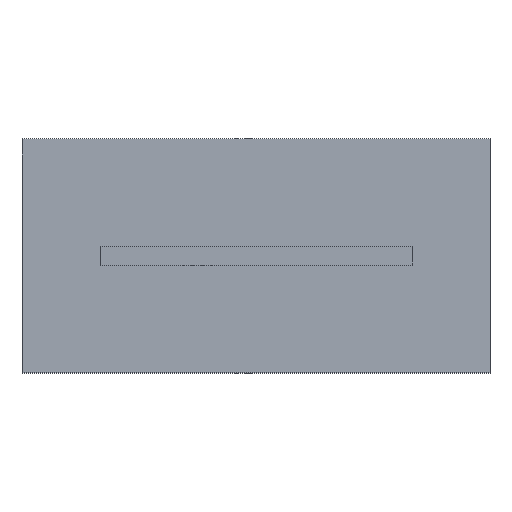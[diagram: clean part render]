
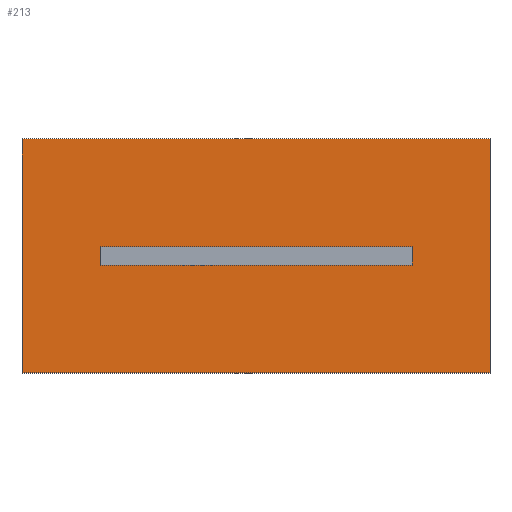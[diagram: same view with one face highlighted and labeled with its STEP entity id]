
A CAD part, top view. The second image highlights one B-rep face of the part: STEP entity #213.
In plain terms, the highlighted planar face has unit normal (0, 0, 1).
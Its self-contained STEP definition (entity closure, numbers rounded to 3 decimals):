
#24 = VERTEX_POINT('',#25);
#25 = CARTESIAN_POINT('',(-45.,-22.5,15.));
#32 = PLANE('',#33);
#33 = AXIS2_PLACEMENT_3D('',#34,#35,#36);
#34 = CARTESIAN_POINT('',(-45.,-22.5,0.));
#35 = DIRECTION('',(1.,0.,0.));
#36 = DIRECTION('',(0.,0.,1.));
#44 = PLANE('',#45);
#45 = AXIS2_PLACEMENT_3D('',#46,#47,#48);
#46 = CARTESIAN_POINT('',(-45.,-22.5,0.));
#47 = DIRECTION('',(0.,1.,0.));
#48 = DIRECTION('',(0.,0.,1.));
#85 = VERTEX_POINT('',#86);
#86 = CARTESIAN_POINT('',(-45.,22.5,15.));
#100 = PLANE('',#101);
#101 = AXIS2_PLACEMENT_3D('',#102,#103,#104);
#102 = CARTESIAN_POINT('',(-45.,22.5,0.));
#103 = DIRECTION('',(0.,1.,0.));
#104 = DIRECTION('',(0.,0.,1.));
#112 = EDGE_CURVE('',#24,#85,#113,.T.);
#113 = SURFACE_CURVE('',#114,(#118,#125),.PCURVE_S1.);
#114 = LINE('',#115,#116);
#115 = CARTESIAN_POINT('',(-45.,-22.5,15.));
#116 = VECTOR('',#117,1.);
#117 = DIRECTION('',(0.,1.,0.));
#118 = PCURVE('',#32,#119);
#119 = DEFINITIONAL_REPRESENTATION('',(#120),#124);
#120 = LINE('',#121,#122);
#121 = CARTESIAN_POINT('',(15.,0.));
#122 = VECTOR('',#123,1.);
#123 = DIRECTION('',(0.,-1.));
#124 = ( GEOMETRIC_REPRESENTATION_CONTEXT(2) 
PARAMETRIC_REPRESENTATION_CONTEXT() REPRESENTATION_CONTEXT('2D SPACE',''
  ) );
#125 = PCURVE('',#126,#131);
#126 = PLANE('',#127);
#127 = AXIS2_PLACEMENT_3D('',#128,#129,#130);
#128 = CARTESIAN_POINT('',(-45.,-22.5,15.));
#129 = DIRECTION('',(0.,0.,1.));
#130 = DIRECTION('',(1.,0.,0.));
#131 = DEFINITIONAL_REPRESENTATION('',(#132),#136);
#132 = LINE('',#133,#134);
#133 = CARTESIAN_POINT('',(0.,0.));
#134 = VECTOR('',#135,1.);
#135 = DIRECTION('',(0.,1.));
#136 = ( GEOMETRIC_REPRESENTATION_CONTEXT(2) 
PARAMETRIC_REPRESENTATION_CONTEXT() REPRESENTATION_CONTEXT('2D SPACE',''
  ) );
#165 = EDGE_CURVE('',#24,#166,#168,.T.);
#166 = VERTEX_POINT('',#167);
#167 = CARTESIAN_POINT('',(45.,-22.5,15.));
#168 = SURFACE_CURVE('',#169,(#173,#180),.PCURVE_S1.);
#169 = LINE('',#170,#171);
#170 = CARTESIAN_POINT('',(-45.,-22.5,15.));
#171 = VECTOR('',#172,1.);
#172 = DIRECTION('',(1.,0.,0.));
#173 = PCURVE('',#44,#174);
#174 = DEFINITIONAL_REPRESENTATION('',(#175),#179);
#175 = LINE('',#176,#177);
#176 = CARTESIAN_POINT('',(15.,0.));
#177 = VECTOR('',#178,1.);
#178 = DIRECTION('',(0.,1.));
#179 = ( GEOMETRIC_REPRESENTATION_CONTEXT(2) 
PARAMETRIC_REPRESENTATION_CONTEXT() REPRESENTATION_CONTEXT('2D SPACE',''
  ) );
#180 = PCURVE('',#126,#181);
#181 = DEFINITIONAL_REPRESENTATION('',(#182),#186);
#182 = LINE('',#183,#184);
#183 = CARTESIAN_POINT('',(0.,0.));
#184 = VECTOR('',#185,1.);
#185 = DIRECTION('',(1.,0.));
#186 = ( GEOMETRIC_REPRESENTATION_CONTEXT(2) 
PARAMETRIC_REPRESENTATION_CONTEXT() REPRESENTATION_CONTEXT('2D SPACE',''
  ) );
#202 = PLANE('',#203);
#203 = AXIS2_PLACEMENT_3D('',#204,#205,#206);
#204 = CARTESIAN_POINT('',(45.,-22.5,0.));
#205 = DIRECTION('',(1.,0.,0.));
#206 = DIRECTION('',(0.,0.,1.));
#213 = ADVANCED_FACE('',(#214,#262),#126,.T.);
#214 = FACE_BOUND('',#215,.T.);
#215 = EDGE_LOOP('',(#216,#217,#218,#241));
#216 = ORIENTED_EDGE('',*,*,#112,.F.);
#217 = ORIENTED_EDGE('',*,*,#165,.T.);
#218 = ORIENTED_EDGE('',*,*,#219,.T.);
#219 = EDGE_CURVE('',#166,#220,#222,.T.);
#220 = VERTEX_POINT('',#221);
#221 = CARTESIAN_POINT('',(45.,22.5,15.));
#222 = SURFACE_CURVE('',#223,(#227,#234),.PCURVE_S1.);
#223 = LINE('',#224,#225);
#224 = CARTESIAN_POINT('',(45.,-22.5,15.));
#225 = VECTOR('',#226,1.);
#226 = DIRECTION('',(0.,1.,0.));
#227 = PCURVE('',#126,#228);
#228 = DEFINITIONAL_REPRESENTATION('',(#229),#233);
#229 = LINE('',#230,#231);
#230 = CARTESIAN_POINT('',(90.,0.));
#231 = VECTOR('',#232,1.);
#232 = DIRECTION('',(0.,1.));
#233 = ( GEOMETRIC_REPRESENTATION_CONTEXT(2) 
PARAMETRIC_REPRESENTATION_CONTEXT() REPRESENTATION_CONTEXT('2D SPACE',''
  ) );
#234 = PCURVE('',#202,#235);
#235 = DEFINITIONAL_REPRESENTATION('',(#236),#240);
#236 = LINE('',#237,#238);
#237 = CARTESIAN_POINT('',(15.,0.));
#238 = VECTOR('',#239,1.);
#239 = DIRECTION('',(0.,-1.));
#240 = ( GEOMETRIC_REPRESENTATION_CONTEXT(2) 
PARAMETRIC_REPRESENTATION_CONTEXT() REPRESENTATION_CONTEXT('2D SPACE',''
  ) );
#241 = ORIENTED_EDGE('',*,*,#242,.F.);
#242 = EDGE_CURVE('',#85,#220,#243,.T.);
#243 = SURFACE_CURVE('',#244,(#248,#255),.PCURVE_S1.);
#244 = LINE('',#245,#246);
#245 = CARTESIAN_POINT('',(-45.,22.5,15.));
#246 = VECTOR('',#247,1.);
#247 = DIRECTION('',(1.,0.,0.));
#248 = PCURVE('',#126,#249);
#249 = DEFINITIONAL_REPRESENTATION('',(#250),#254);
#250 = LINE('',#251,#252);
#251 = CARTESIAN_POINT('',(0.,45.));
#252 = VECTOR('',#253,1.);
#253 = DIRECTION('',(1.,0.));
#254 = ( GEOMETRIC_REPRESENTATION_CONTEXT(2) 
PARAMETRIC_REPRESENTATION_CONTEXT() REPRESENTATION_CONTEXT('2D SPACE',''
  ) );
#255 = PCURVE('',#100,#256);
#256 = DEFINITIONAL_REPRESENTATION('',(#257),#261);
#257 = LINE('',#258,#259);
#258 = CARTESIAN_POINT('',(15.,0.));
#259 = VECTOR('',#260,1.);
#260 = DIRECTION('',(0.,1.));
#261 = ( GEOMETRIC_REPRESENTATION_CONTEXT(2) 
PARAMETRIC_REPRESENTATION_CONTEXT() REPRESENTATION_CONTEXT('2D SPACE',''
  ) );
#262 = FACE_BOUND('',#263,.T.);
#263 = EDGE_LOOP('',(#264,#294,#322,#350));
#264 = ORIENTED_EDGE('',*,*,#265,.T.);
#265 = EDGE_CURVE('',#266,#268,#270,.T.);
#266 = VERTEX_POINT('',#267);
#267 = CARTESIAN_POINT('',(30.,-1.75,15.));
#268 = VERTEX_POINT('',#269);
#269 = CARTESIAN_POINT('',(-30.,-1.75,15.));
#270 = SURFACE_CURVE('',#271,(#275,#282),.PCURVE_S1.);
#271 = LINE('',#272,#273);
#272 = CARTESIAN_POINT('',(-37.5,-1.75,15.));
#273 = VECTOR('',#274,1.);
#274 = DIRECTION('',(-1.,0.,0.));
#275 = PCURVE('',#126,#276);
#276 = DEFINITIONAL_REPRESENTATION('',(#277),#281);
#277 = LINE('',#278,#279);
#278 = CARTESIAN_POINT('',(7.5,20.75));
#279 = VECTOR('',#280,1.);
#280 = DIRECTION('',(-1.,0.));
#281 = ( GEOMETRIC_REPRESENTATION_CONTEXT(2) 
PARAMETRIC_REPRESENTATION_CONTEXT() REPRESENTATION_CONTEXT('2D SPACE',''
  ) );
#282 = PCURVE('',#283,#288);
#283 = PLANE('',#284);
#284 = AXIS2_PLACEMENT_3D('',#285,#286,#287);
#285 = CARTESIAN_POINT('',(-30.,-1.75,3.));
#286 = DIRECTION('',(0.,1.,0.));
#287 = DIRECTION('',(0.,0.,1.));
#288 = DEFINITIONAL_REPRESENTATION('',(#289),#293);
#289 = LINE('',#290,#291);
#290 = CARTESIAN_POINT('',(12.,-7.5));
#291 = VECTOR('',#292,1.);
#292 = DIRECTION('',(0.,-1.));
#293 = ( GEOMETRIC_REPRESENTATION_CONTEXT(2) 
PARAMETRIC_REPRESENTATION_CONTEXT() REPRESENTATION_CONTEXT('2D SPACE',''
  ) );
#294 = ORIENTED_EDGE('',*,*,#295,.T.);
#295 = EDGE_CURVE('',#268,#296,#298,.T.);
#296 = VERTEX_POINT('',#297);
#297 = CARTESIAN_POINT('',(-30.,1.75,15.));
#298 = SURFACE_CURVE('',#299,(#303,#310),.PCURVE_S1.);
#299 = LINE('',#300,#301);
#300 = CARTESIAN_POINT('',(-30.,-12.125,15.));
#301 = VECTOR('',#302,1.);
#302 = DIRECTION('',(0.,1.,0.));
#303 = PCURVE('',#126,#304);
#304 = DEFINITIONAL_REPRESENTATION('',(#305),#309);
#305 = LINE('',#306,#307);
#306 = CARTESIAN_POINT('',(15.,10.375));
#307 = VECTOR('',#308,1.);
#308 = DIRECTION('',(0.,1.));
#309 = ( GEOMETRIC_REPRESENTATION_CONTEXT(2) 
PARAMETRIC_REPRESENTATION_CONTEXT() REPRESENTATION_CONTEXT('2D SPACE',''
  ) );
#310 = PCURVE('',#311,#316);
#311 = PLANE('',#312);
#312 = AXIS2_PLACEMENT_3D('',#313,#314,#315);
#313 = CARTESIAN_POINT('',(-30.,-1.75,3.));
#314 = DIRECTION('',(1.,0.,0.));
#315 = DIRECTION('',(0.,0.,1.));
#316 = DEFINITIONAL_REPRESENTATION('',(#317),#321);
#317 = LINE('',#318,#319);
#318 = CARTESIAN_POINT('',(12.,10.375));
#319 = VECTOR('',#320,1.);
#320 = DIRECTION('',(0.,-1.));
#321 = ( GEOMETRIC_REPRESENTATION_CONTEXT(2) 
PARAMETRIC_REPRESENTATION_CONTEXT() REPRESENTATION_CONTEXT('2D SPACE',''
  ) );
#322 = ORIENTED_EDGE('',*,*,#323,.F.);
#323 = EDGE_CURVE('',#324,#296,#326,.T.);
#324 = VERTEX_POINT('',#325);
#325 = CARTESIAN_POINT('',(30.,1.75,15.));
#326 = SURFACE_CURVE('',#327,(#331,#338),.PCURVE_S1.);
#327 = LINE('',#328,#329);
#328 = CARTESIAN_POINT('',(-37.5,1.75,15.));
#329 = VECTOR('',#330,1.);
#330 = DIRECTION('',(-1.,0.,0.));
#331 = PCURVE('',#126,#332);
#332 = DEFINITIONAL_REPRESENTATION('',(#333),#337);
#333 = LINE('',#334,#335);
#334 = CARTESIAN_POINT('',(7.5,24.25));
#335 = VECTOR('',#336,1.);
#336 = DIRECTION('',(-1.,0.));
#337 = ( GEOMETRIC_REPRESENTATION_CONTEXT(2) 
PARAMETRIC_REPRESENTATION_CONTEXT() REPRESENTATION_CONTEXT('2D SPACE',''
  ) );
#338 = PCURVE('',#339,#344);
#339 = PLANE('',#340);
#340 = AXIS2_PLACEMENT_3D('',#341,#342,#343);
#341 = CARTESIAN_POINT('',(-30.,1.75,3.));
#342 = DIRECTION('',(0.,1.,0.));
#343 = DIRECTION('',(0.,0.,1.));
#344 = DEFINITIONAL_REPRESENTATION('',(#345),#349);
#345 = LINE('',#346,#347);
#346 = CARTESIAN_POINT('',(12.,-7.5));
#347 = VECTOR('',#348,1.);
#348 = DIRECTION('',(0.,-1.));
#349 = ( GEOMETRIC_REPRESENTATION_CONTEXT(2) 
PARAMETRIC_REPRESENTATION_CONTEXT() REPRESENTATION_CONTEXT('2D SPACE',''
  ) );
#350 = ORIENTED_EDGE('',*,*,#351,.F.);
#351 = EDGE_CURVE('',#266,#324,#352,.T.);
#352 = SURFACE_CURVE('',#353,(#357,#364),.PCURVE_S1.);
#353 = LINE('',#354,#355);
#354 = CARTESIAN_POINT('',(30.,-12.125,15.));
#355 = VECTOR('',#356,1.);
#356 = DIRECTION('',(0.,1.,0.));
#357 = PCURVE('',#126,#358);
#358 = DEFINITIONAL_REPRESENTATION('',(#359),#363);
#359 = LINE('',#360,#361);
#360 = CARTESIAN_POINT('',(75.,10.375));
#361 = VECTOR('',#362,1.);
#362 = DIRECTION('',(0.,1.));
#363 = ( GEOMETRIC_REPRESENTATION_CONTEXT(2) 
PARAMETRIC_REPRESENTATION_CONTEXT() REPRESENTATION_CONTEXT('2D SPACE',''
  ) );
#364 = PCURVE('',#365,#370);
#365 = PLANE('',#366);
#366 = AXIS2_PLACEMENT_3D('',#367,#368,#369);
#367 = CARTESIAN_POINT('',(30.,-1.75,3.));
#368 = DIRECTION('',(1.,0.,0.));
#369 = DIRECTION('',(0.,0.,1.));
#370 = DEFINITIONAL_REPRESENTATION('',(#371),#375);
#371 = LINE('',#372,#373);
#372 = CARTESIAN_POINT('',(12.,10.375));
#373 = VECTOR('',#374,1.);
#374 = DIRECTION('',(0.,-1.));
#375 = ( GEOMETRIC_REPRESENTATION_CONTEXT(2) 
PARAMETRIC_REPRESENTATION_CONTEXT() REPRESENTATION_CONTEXT('2D SPACE',''
  ) );
